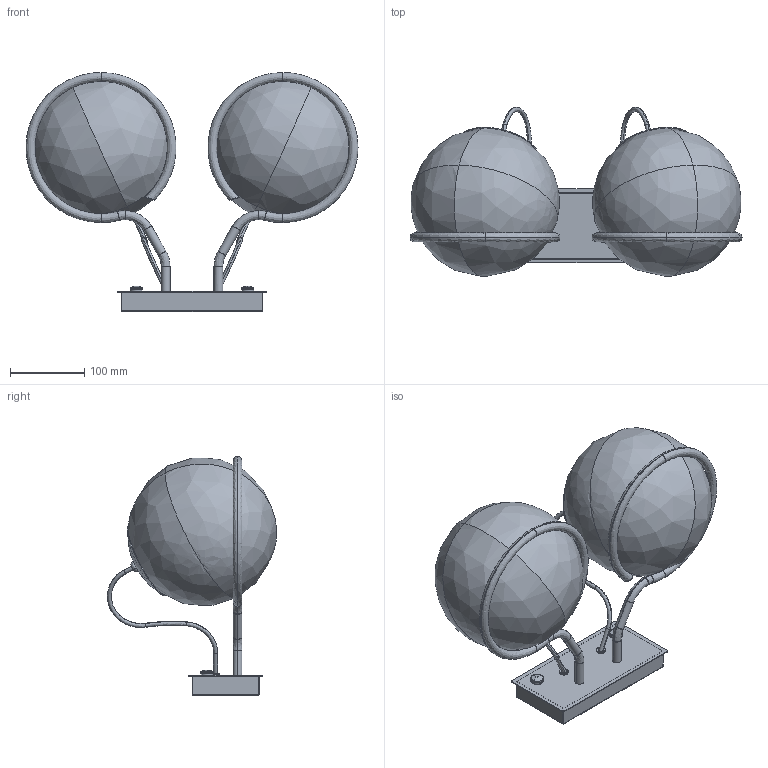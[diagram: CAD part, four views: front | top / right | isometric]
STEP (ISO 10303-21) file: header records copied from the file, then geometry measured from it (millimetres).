
FILE_DESCRIPTION(/* description */ (''),/* implementation_level */ '2;1');
FILE_NAME(/* name */ 'Model 238:2',/* time_stamp */ '2018-08-09T14:29:00+02:00',/* author */ (''),/* organization */ (''),/* preprocessor_version */ 'ST-DEVELOPER v15',/* originating_system */ '',/* authorisation */ '');
FILE_SCHEMA (('AUTOMOTIVE_DESIGN'));
Length unit declared in the file: millimetre
Products named in the file (1): Document
Bounding box: 446.63 x 227.84 x 321.57 mm (x, y, z)
Volume: 1017738.4 mm3; surface area: 710193.5 mm2
Topology: 15 solids, 16 shells, 739 faces, 1987 edges, 1256 vertices
Faces by surface type: plane 372, bspline 367
Entity records: 35524 total; most frequent: CARTESIAN_POINT 23625, ORIENTED_EDGE 3914, EDGE_CURVE 1961, VERTEX_POINT 1256, B_SPLINE_CURVE_WITH_KNOTS 1151, EDGE_LOOP 775, ADVANCED_FACE 739, FACE_OUTER_BOUND 739
